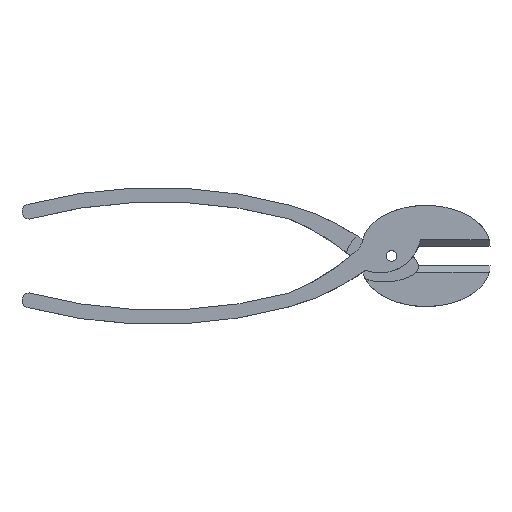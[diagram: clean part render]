
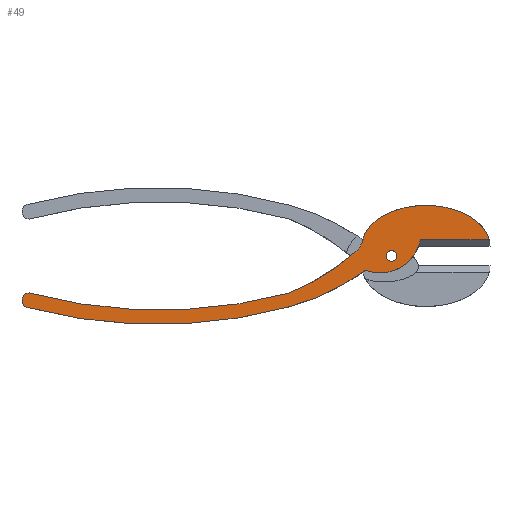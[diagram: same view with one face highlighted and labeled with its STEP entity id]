
A CAD part, top view. The second image highlights one B-rep face of the part: STEP entity #49.
In plain terms, the highlighted planar face has unit normal (0, 0, 1) as drawn and (0, 0, -1) by its records, which use the part's own axes.
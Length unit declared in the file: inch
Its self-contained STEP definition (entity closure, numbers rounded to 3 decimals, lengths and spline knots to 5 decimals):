
#2 = EDGE_LOOP ( 'NONE', ( #92, #128, #24, #127, #28, #30, #126, #135, #27, #157 ) ) ;
#5 = EDGE_CURVE ( 'NONE', #60, #63, #729, .T. ) ;
#8 = VERTEX_POINT ( 'NONE', #730 ) ;
#18 = EDGE_CURVE ( 'NONE', #85, #8, #697, .T. ) ;
#23 = EDGE_CURVE ( 'NONE', #25, #82, #662, .T. ) ;
#24 = ORIENTED_EDGE ( 'NONE', *, *, #34, .F. ) ;
#25 = VERTEX_POINT ( 'NONE', #658 ) ;
#27 = ORIENTED_EDGE ( 'NONE', *, *, #151, .F. ) ;
#28 = ORIENTED_EDGE ( 'NONE', *, *, #33, .F. ) ;
#30 = ORIENTED_EDGE ( 'NONE', *, *, #125, .F. ) ;
#31 = VERTEX_POINT ( 'NONE', #657 ) ;
#32 = EDGE_CURVE ( 'NONE', #87, #36, #656, .T. ) ;
#33 = EDGE_CURVE ( 'NONE', #31, #85, #713, .T. ) ;
#34 = EDGE_CURVE ( 'NONE', #8, #36, #736, .T. ) ;
#36 = VERTEX_POINT ( 'NONE', #679 ) ;
#44 = EDGE_CURVE ( 'NONE', #82, #106, #280, .T. ) ;
#49 = ADVANCED_FACE ( 'NONE', ( #295, #294 ), #304, .F. ) ;
#60 = VERTEX_POINT ( 'NONE', #338 ) ;
#62 = EDGE_CURVE ( 'NONE', #63, #60, #337, .T. ) ;
#63 = VERTEX_POINT ( 'NONE', #339 ) ;
#82 = VERTEX_POINT ( 'NONE', #392 ) ;
#85 = VERTEX_POINT ( 'NONE', #354 ) ;
#87 = VERTEX_POINT ( 'NONE', #353 ) ;
#92 = ORIENTED_EDGE ( 'NONE', *, *, #99, .F. ) ;
#99 = EDGE_CURVE ( 'NONE', #87, #100, #398, .T. ) ;
#100 = VERTEX_POINT ( 'NONE', #374 ) ;
#106 = VERTEX_POINT ( 'NONE', #427 ) ;
#125 = EDGE_CURVE ( 'NONE', #106, #31, #432, .T. ) ;
#126 = ORIENTED_EDGE ( 'NONE', *, *, #44, .F. ) ;
#127 = ORIENTED_EDGE ( 'NONE', *, *, #18, .F. ) ;
#128 = ORIENTED_EDGE ( 'NONE', *, *, #32, .T. ) ;
#135 = ORIENTED_EDGE ( 'NONE', *, *, #23, .F. ) ;
#142 = EDGE_LOOP ( 'NONE', ( #178, #184 ) ) ;
#151 = EDGE_CURVE ( 'NONE', #179, #25, #462, .T. ) ;
#157 = ORIENTED_EDGE ( 'NONE', *, *, #185, .F. ) ;
#178 = ORIENTED_EDGE ( 'NONE', *, *, #62, .T. ) ;
#179 = VERTEX_POINT ( 'NONE', #523 ) ;
#184 = ORIENTED_EDGE ( 'NONE', *, *, #5, .T. ) ;
#185 = EDGE_CURVE ( 'NONE', #100, #179, #513, .T. ) ;
#264 = DIRECTION ( 'NONE',  ( 0., 0., 1. ) ) ;
#267 = DIRECTION ( 'NONE',  ( 1., 0., 0. ) ) ;
#268 = DIRECTION ( 'NONE',  ( 1., 0., 0. ) ) ;
#278 = CARTESIAN_POINT ( 'NONE',  ( -10.79498, 1.27549, 0. ) ) ;
#279 = AXIS2_PLACEMENT_3D ( 'NONE', #278, #264, #267 ) ;
#280 = CIRCLE ( 'NONE', #279, 0.175 ) ;
#281 = DIRECTION ( 'NONE',  ( 1., 0., 0. ) ) ;
#282 = DIRECTION ( 'NONE',  ( 0., 0., 1. ) ) ;
#294 = FACE_BOUND ( 'NONE', #142, .T. ) ;
#295 = FACE_OUTER_BOUND ( 'NONE', #2, .T. ) ;
#302 = CARTESIAN_POINT ( 'NONE',  ( -1.50001, 0., 0. ) ) ;
#303 = AXIS2_PLACEMENT_3D ( 'NONE', #302, #323, #322 ) ;
#304 = PLANE ( 'NONE',  #303 ) ;
#322 = DIRECTION ( 'NONE',  ( 1., 0., 0. ) ) ;
#323 = DIRECTION ( 'NONE',  ( 0., 0., 1. ) ) ;
#337 = CIRCLE ( 'NONE', #343, 0.125 ) ;
#338 = CARTESIAN_POINT ( 'NONE',  ( -2.1822, 0.23382, 0. ) ) ;
#339 = CARTESIAN_POINT ( 'NONE',  ( -2.4322, 0.23382, 0. ) ) ;
#340 = CARTESIAN_POINT ( 'NONE',  ( -2.3072, 0.23382, 0. ) ) ;
#341 = DIRECTION ( 'NONE',  ( 0., 0., 1. ) ) ;
#342 = DIRECTION ( 'NONE',  ( 1., 0., 0. ) ) ;
#343 = AXIS2_PLACEMENT_3D ( 'NONE', #340, #341, #342 ) ;
#353 = CARTESIAN_POINT ( 'NONE',  ( -1.62983, -0.15, 0. ) ) ;
#354 = CARTESIAN_POINT ( 'NONE',  ( -3.14205, 0.12936, 0. ) ) ;
#374 = CARTESIAN_POINT ( 'NONE',  ( -2.91738, 0.56906, 0. ) ) ;
#375 = DIRECTION ( 'NONE',  ( 1., 0., 0. ) ) ;
#376 = DIRECTION ( 'NONE',  ( 0., 0., 1. ) ) ;
#392 = CARTESIAN_POINT ( 'NONE',  ( -10.96998, 1.27549, 0. ) ) ;
#396 = CARTESIAN_POINT ( 'NONE',  ( -2.57938, -0.33799, 0. ) ) ;
#397 = AXIS2_PLACEMENT_3D ( 'NONE', #396, #376, #375 ) ;
#398 = CIRCLE ( 'NONE', #397, 0.96798 ) ;
#427 = CARTESIAN_POINT ( 'NONE',  ( -10.79498, 1.10049, 0. ) ) ;
#428 = DIRECTION ( 'NONE',  ( -1., 0., 0. ) ) ;
#429 = DIRECTION ( 'NONE',  ( 0., 0., -1. ) ) ;
#430 = CARTESIAN_POINT ( 'NONE',  ( -7.74854, -10.23106, 0. ) ) ;
#431 = AXIS2_PLACEMENT_3D ( 'NONE', #430, #429, #428 ) ;
#432 = CIRCLE ( 'NONE', #431, 11.73391 ) ;
#460 = DIRECTION ( 'NONE',  ( 0., 0., 1. ) ) ;
#461 = AXIS2_PLACEMENT_3D ( 'NONE', #468, #460, #268 ) ;
#462 = CIRCLE ( 'NONE', #461, 11.7284 ) ;
#468 = CARTESIAN_POINT ( 'NONE',  ( -7.79717, -9.88831, 0. ) ) ;
#511 = CARTESIAN_POINT ( 'NONE',  ( -6.16211, -3.91211, 0. ) ) ;
#512 = AXIS2_PLACEMENT_3D ( 'NONE', #511, #282, #281 ) ;
#513 = CIRCLE ( 'NONE', #512, 5.53257 ) ;
#523 = CARTESIAN_POINT ( 'NONE',  ( -4.7021, 1.42433, 0. ) ) ;
#655 = CARTESIAN_POINT ( 'NONE',  ( -1.50001, -0.15, 0. ) ) ;
#656 = LINE ( 'NONE', #655, #715 ) ;
#657 = CARTESIAN_POINT ( 'NONE',  ( -4.7021, 1.10049, 0. ) ) ;
#658 = CARTESIAN_POINT ( 'NONE',  ( -10.79498, 1.45049, 0. ) ) ;
#659 = DIRECTION ( 'NONE',  ( 1., 0., 0. ) ) ;
#660 = DIRECTION ( 'NONE',  ( 0., 0., 1. ) ) ;
#661 = AXIS2_PLACEMENT_3D ( 'NONE', #735, #660, #659 ) ;
#662 = CIRCLE ( 'NONE', #661, 0.175 ) ;
#679 = CARTESIAN_POINT ( 'NONE',  ( -0.01879, -0.15, 0. ) ) ;
#680 = CARTESIAN_POINT ( 'NONE',  ( -0.01879, -0.15, 0. ) ) ;
#681 = CARTESIAN_POINT ( 'NONE',  ( -0.37874, -1.5777, 0. ) ) ;
#682 = CARTESIAN_POINT ( 'NONE',  ( -2.65995, -1.56643, 0. ) ) ;
#683 = CARTESIAN_POINT ( 'NONE',  ( -2.98475, -0.13535, 0. ) ) ;
#689 = DIRECTION ( 'NONE',  ( -1., 0., 0. ) ) ;
#695 = DIRECTION ( 'NONE',  ( 0., 0., -1. ) ) ;
#696 = AXIS2_PLACEMENT_3D ( 'NONE', #739, #695, #689 ) ;
#697 = CIRCLE ( 'NONE', #696, 0.5 ) ;
#709 = DIRECTION ( 'NONE',  ( 1., 0., 0. ) ) ;
#710 = DIRECTION ( 'NONE',  ( 0., 0., -1. ) ) ;
#711 = CARTESIAN_POINT ( 'NONE',  ( -6.8415, -4.07493, 0. ) ) ;
#712 = AXIS2_PLACEMENT_3D ( 'NONE', #711, #710, #709 ) ;
#713 = CIRCLE ( 'NONE', #712, 5.60018 ) ;
#714 = DIRECTION ( 'NONE',  ( 1., 0., 0. ) ) ;
#715 = VECTOR ( 'NONE', #714, 39.37008 ) ;
#716 = AXIS2_PLACEMENT_3D ( 'NONE', #728, #723, #722 ) ;
#722 = DIRECTION ( 'NONE',  ( 1., 0., 0. ) ) ;
#723 = DIRECTION ( 'NONE',  ( 0., 0., 1. ) ) ;
#728 = CARTESIAN_POINT ( 'NONE',  ( -2.3072, 0.23382, 0. ) ) ;
#729 = CIRCLE ( 'NONE', #716, 0.125 ) ;
#730 = CARTESIAN_POINT ( 'NONE',  ( -2.98475, -0.13535, 0. ) ) ;
#735 = CARTESIAN_POINT ( 'NONE',  ( -10.79498, 1.27549, 0. ) ) ;
#736 =( BOUNDED_CURVE ( )  B_SPLINE_CURVE ( 3, ( #683, #682, #681, #680 ),
 .UNSPECIFIED., .F., .T. ) 
 B_SPLINE_CURVE_WITH_KNOTS ( ( 4, 4 ),
 ( 3.28445, 6.12474 ),
 .UNSPECIFIED. ) 
 CURVE ( )  GEOMETRIC_REPRESENTATION_ITEM ( )  RATIONAL_B_SPLINE_CURVE ( ( 1., 0.433, 0.433, 1. ) ) 
 REPRESENTATION_ITEM ( '' )  );
#739 = CARTESIAN_POINT ( 'NONE',  ( -3.47235, -0.24601, 0. ) ) ;
